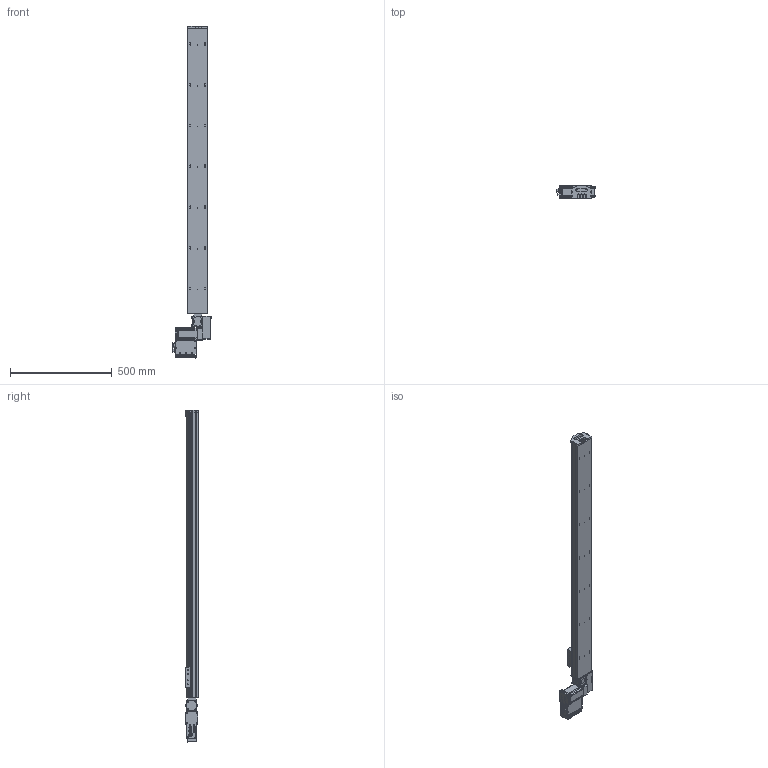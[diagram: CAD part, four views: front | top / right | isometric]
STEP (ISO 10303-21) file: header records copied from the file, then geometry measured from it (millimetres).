
FILE_DESCRIPTION (( 'STEP AP203' ), '1' );
FILE_NAME ('S10 TBN LH S1400.STEP', '2012-06-18T09:42:51', ( 'Conseil Régional Haute-Normandie' ), ( 'Conseil Régional Haute-Normandie' ), 'SwSTEP 2.0', 'SolidWorks 2010', '' );
FILE_SCHEMA (( 'CONFIG_CONTROL_DESIGN' ));
Length unit declared in the file: millimetre
Products named in the file (28): Plaque racord_Default; Assem1_7; renvoi LH_Default; vis M5 L5_Default; Cvis M5 L30_Default; palette tbn; S10 TBN LH S1400; cache t皻e axe_Default; cache t皻e_Default; plaque de bout s10_Default; T_X2_00F4_X0_le contre le moteur_5; BU41 Carte Alimentation P05_3; Colonnette_3; BU45 Carte d''axe A11_5; Moteur 60BLDC90A_3; Couvercle_3; T_X2_00F4_X0_le fond_3; Connecteur rond D10 3cts_5; Connecteur rond D12 4cts_5; Sub D 9cts 90_X2_00B_X0__3; Radiateur profil_X2_00E9_X0_ 100x25_3; Colonnette ronde_3; T_X2_00F4_X0_le Arri_X2_00E8_X0_re_5; T_X2_00F4_X0_le lat_X2_00E9_X0_rale_5; Vis TF 3 torkx_1_1; vis M5 L12_Default; axe 1400; embout
Assembly tree (58 placements, depth 3):
  S10 TBN LH S1400
    cache t皻e axe_Default
    vis M5 L12_Default  x4
    Assem1_7
      Vis TF 3 torkx_1_1  x21
      T_X2_00F4_X0_le contre le moteur_5
      T_X2_00F4_X0_le lat_X2_00E9_X0_rale_5  x2
      Connecteur rond D12 4cts_5
      Colonnette_3  x2
      Couvercle_3
      Connecteur rond D10 3cts_5  x2
      T_X2_00F4_X0_le Arri_X2_00E8_X0_re_5
      Sub D 9cts 90_X2_00B_X0__3
      Moteur 60BLDC90A_3
      BU41 Carte Alimentation P05_3
      BU45 Carte d''axe A11_5
      Radiateur profil_X2_00E9_X0_ 100x25_3
      T_X2_00F4_X0_le fond_3
      Colonnette ronde_3
    vis M5 L5_Default  x4
    palette tbn
    cache t皻e_Default  x2
    renvoi LH_Default
    Plaque racord_Default
    Cvis M5 L30_Default  x2
    axe 1400
    embout
    plaque de bout s10_Default
Bounding box: 189.8 x 66.75 x 1628.5 mm (x, y, z)
Volume: 8135132.3 mm3; surface area: 989226.9 mm2
Topology: 57 solids, 57 shells, 2218 faces, 5536 edges, 3575 vertices
Faces by surface type: plane 1037, cylinder 972, cone 174, bspline 32, torus 3
Entity records: 47230 total; most frequent: CARTESIAN_POINT 8531, DIRECTION 7649, ORIENTED_EDGE 6952, EDGE_CURVE 3476, AXIS2_PLACEMENT_3D 2842, VERTEX_POINT 2269, VECTOR 1965, LINE 1965
